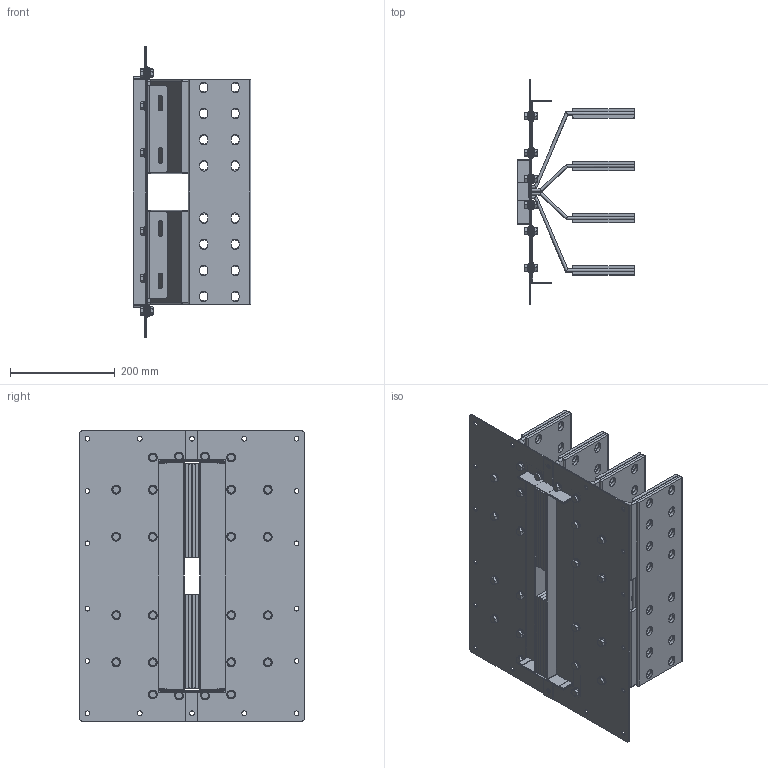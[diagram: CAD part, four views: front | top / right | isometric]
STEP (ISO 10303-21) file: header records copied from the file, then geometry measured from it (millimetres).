
FILE_DESCRIPTION(('CATIA V5 STEP','CAx-IF Rec.Pracs.--- Model Styling and Organization---1.5--- 2016-08-15','CAx-IF Rec.Pracs.---Supplemental Geometry---1.0---2011-11-01','CAx-IF Rec.Pracs.--- Composite Materials ---1.1---2010-07-15'),'2;1');
FILE_NAME('K:\COSCN 2011\32372311_RiduzioneSezioniBarre\03_Studio\__Modelli semplificati\XCP_UB semplificati per studi\XCP-HP_UB_4C_Pe_STD_Assieme\Al\XCP-HP_UB_4C_Pe_D_Assieme - 3200A Al\XCP-HP_UB_4C_Pe_D_Assieme - 3200A Al.stp','2025-05-12T10:10:32+00:00',('Utente Bticino'),('Bticino S.p.A.'),'CATIA Version 5-6 Release 2020 SP5','CATIA V5 STEP AP214 v2','none');
FILE_SCHEMA(('AUTOMOTIVE_DESIGN { 1 0 10303 214 1 1 1 1 }'));
Length unit declared in the file: millimetre
Products named in the file (8): XCP-HP_UB_4C_Pe_D_Assieme - 3200A Al; XCP-HP_UB_4C_Pe_D_PaccoBarre_3200A Al; XCP-HP_UB_4C_Pe_D_Lamiere_3200A Al; XCP-HP_UB_4C_Pe_D_PaccoBarre_3200A Al_1; XCP-HP_UB_4C_Pe_D - 3200A Al_Bandelle parallelo; Ass Vite+dado M8; Steel hex flanged SCREW M12x16; Steel hex flanged NUT M8
Assembly tree (30 placements, depth 3):
  XCP-HP_UB_4C_Pe_D_Assieme - 3200A Al
    XCP-HP_UB_4C_Pe_D_PaccoBarre_3200A Al
    XCP-HP_UB_4C_Pe_D_Lamiere_3200A Al
    XCP-HP_UB_4C_Pe_D_PaccoBarre_3200A Al_1
    XCP-HP_UB_4C_Pe_D - 3200A Al_Bandelle parallelo
    Ass Vite+dado M8  x24
      Steel hex flanged SCREW M12x16
      Steel hex flanged NUT M8
Bounding box: 225 x 430 x 555 mm (x, y, z)
Volume: 5264699.9 mm3; surface area: 2486827.6 mm2
Topology: 74 solids, 74 shells, 2404 faces, 6216 edges, 4008 vertices
Faces by surface type: plane 1064, cylinder 908, cone 192, bspline 192, torus 48
Entity records: 41573 total; most frequent: CARTESIAN_POINT 8322, ORIENTED_EDGE 7556, DIRECTION 5120, EDGE_CURVE 3778, VERTEX_POINT 2490, VECTOR 2396, LINE 2396, AXIS2_PLACEMENT_3D 2012
